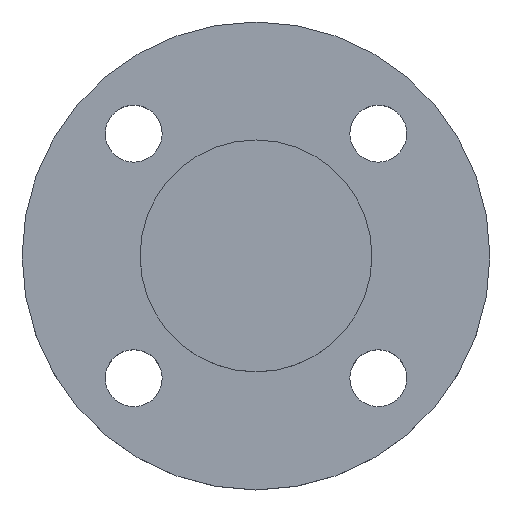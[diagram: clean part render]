
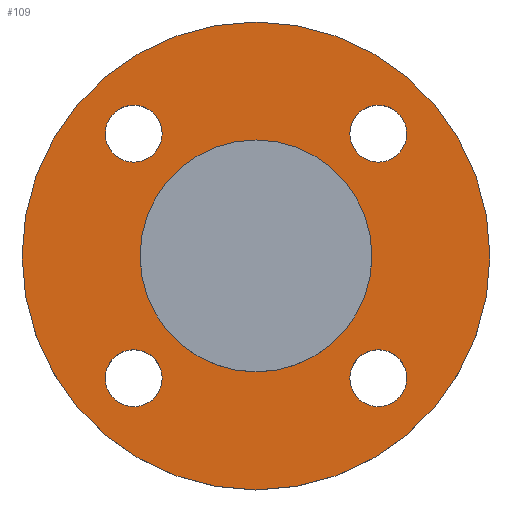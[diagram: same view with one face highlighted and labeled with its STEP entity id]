
A CAD part, top view. The second image highlights one B-rep face of the part: STEP entity #109.
In plain terms, the highlighted planar face has unit normal (0, 0, 1).
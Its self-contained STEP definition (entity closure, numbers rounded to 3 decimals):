
#5 = AXIS2_PLACEMENT_3D ( 'NONE', #481, #482, #483 ) ;
#6 = AXIS2_PLACEMENT_3D ( 'NONE', #507, #508, #509 ) ;
#7 = EDGE_CURVE ( 'NONE', #132, #118, #8, .T. ) ;
#8 = CIRCLE ( 'NONE', #31, 7. ) ;
#11 = AXIS2_PLACEMENT_3D ( 'NONE', #357, #358, #359 ) ;
#13 = AXIS2_PLACEMENT_3D ( 'NONE', #433, #434, #435 ) ;
#15 = EDGE_CURVE ( 'NONE', #236, #275, #22, .T. ) ;
#17 = AXIS2_PLACEMENT_3D ( 'NONE', #299, #300, #301 ) ;
#22 = CIRCLE ( 'NONE', #26, 7. ) ;
#24 = EDGE_CURVE ( 'NONE', #194, #251, #76, .T. ) ;
#26 = AXIS2_PLACEMENT_3D ( 'NONE', #293, #294, #295 ) ;
#31 = AXIS2_PLACEMENT_3D ( 'NONE', #290, #291, #292 ) ;
#37 = CIRCLE ( 'NONE', #122, 7. ) ;
#40 = CIRCLE ( 'NONE', #98, 7. ) ;
#47 = CIRCLE ( 'NONE', #48, 7. ) ;
#48 = AXIS2_PLACEMENT_3D ( 'NONE', #376, #377, #379 ) ;
#68 = CIRCLE ( 'NONE', #135, 57.5 ) ;
#76 = CIRCLE ( 'NONE', #17, 28.5 ) ;
#83 = CIRCLE ( 'NONE', #13, 7. ) ;
#88 = DIRECTION ( 'NONE',  ( -1., 0., 0. ) ) ;
#89 = AXIS2_PLACEMENT_3D ( 'NONE', #496, #497, #88 ) ;
#98 = AXIS2_PLACEMENT_3D ( 'NONE', #426, #427, #428 ) ;
#101 = AXIS2_PLACEMENT_3D ( 'NONE', #392, #393, #394 ) ;
#103 = CIRCLE ( 'NONE', #101, 7. ) ;
#109 = ADVANCED_FACE ( 'NONE', ( #350, #351, #352, #353, #354, #355 ), #356, .T. ) ;
#118 = VERTEX_POINT ( 'NONE', #374 ) ;
#122 = AXIS2_PLACEMENT_3D ( 'NONE', #429, #431, #432 ) ;
#124 = EDGE_CURVE ( 'NONE', #118, #132, #47, .T. ) ;
#128 = VERTEX_POINT ( 'NONE', #380 ) ;
#129 = EDGE_LOOP ( 'NONE', ( #217, #219 ) ) ;
#131 = EDGE_LOOP ( 'NONE', ( #210, #211 ) ) ;
#132 = VERTEX_POINT ( 'NONE', #381 ) ;
#133 = VERTEX_POINT ( 'NONE', #382 ) ;
#135 = AXIS2_PLACEMENT_3D ( 'NONE', #478, #479, #480 ) ;
#146 = EDGE_LOOP ( 'NONE', ( #200, #205 ) ) ;
#154 = EDGE_LOOP ( 'NONE', ( #212, #216 ) ) ;
#155 = VERTEX_POINT ( 'NONE', #391 ) ;
#156 = EDGE_CURVE ( 'NONE', #128, #155, #103, .T. ) ;
#171 = VERTEX_POINT ( 'NONE', #414 ) ;
#176 = EDGE_CURVE ( 'NONE', #155, #128, #40, .T. ) ;
#179 = EDGE_CURVE ( 'NONE', #267, #261, #37, .T. ) ;
#180 = EDGE_CURVE ( 'NONE', #261, #267, #83, .T. ) ;
#194 = VERTEX_POINT ( 'NONE', #462 ) ;
#200 = ORIENTED_EDGE ( 'NONE', *, *, #179, .T. ) ;
#205 = ORIENTED_EDGE ( 'NONE', *, *, #180, .T. ) ;
#206 = ORIENTED_EDGE ( 'NONE', *, *, #378, .T. ) ;
#207 = ORIENTED_EDGE ( 'NONE', *, *, #15, .T. ) ;
#208 = ORIENTED_EDGE ( 'NONE', *, *, #124, .T. ) ;
#209 = ORIENTED_EDGE ( 'NONE', *, *, #7, .T. ) ;
#210 = ORIENTED_EDGE ( 'NONE', *, *, #176, .T. ) ;
#211 = ORIENTED_EDGE ( 'NONE', *, *, #156, .T. ) ;
#212 = ORIENTED_EDGE ( 'NONE', *, *, #244, .T. ) ;
#216 = ORIENTED_EDGE ( 'NONE', *, *, #24, .T. ) ;
#217 = ORIENTED_EDGE ( 'NONE', *, *, #238, .F. ) ;
#219 = ORIENTED_EDGE ( 'NONE', *, *, #280, .F. ) ;
#236 = VERTEX_POINT ( 'NONE', #477 ) ;
#238 = EDGE_CURVE ( 'NONE', #171, #133, #68, .T. ) ;
#244 = EDGE_CURVE ( 'NONE', #251, #194, #458, .T. ) ;
#251 = VERTEX_POINT ( 'NONE', #487 ) ;
#257 = EDGE_LOOP ( 'NONE', ( #208, #209 ) ) ;
#261 = VERTEX_POINT ( 'NONE', #492 ) ;
#267 = VERTEX_POINT ( 'NONE', #493 ) ;
#270 = EDGE_LOOP ( 'NONE', ( #206, #207 ) ) ;
#273 = CIRCLE ( 'NONE', #89, 57.5 ) ;
#275 = VERTEX_POINT ( 'NONE', #495 ) ;
#280 = EDGE_CURVE ( 'NONE', #133, #171, #273, .T. ) ;
#290 = CARTESIAN_POINT ( 'NONE',  ( -30.052, 30.052, -4.5 ) ) ;
#291 = DIRECTION ( 'NONE',  ( 0., 0., -1. ) ) ;
#292 = DIRECTION ( 'NONE',  ( 1., 0., 0. ) ) ;
#293 = CARTESIAN_POINT ( 'NONE',  ( -30.052, -30.052, -4.5 ) ) ;
#294 = DIRECTION ( 'NONE',  ( 0., 0., -1. ) ) ;
#295 = DIRECTION ( 'NONE',  ( 1., 0., 0. ) ) ;
#299 = CARTESIAN_POINT ( 'NONE',  ( 0., 0., -4.5 ) ) ;
#300 = DIRECTION ( 'NONE',  ( 0., 0., -1. ) ) ;
#301 = DIRECTION ( 'NONE',  ( -1., 0., 0. ) ) ;
#326 = CIRCLE ( 'NONE', #6, 7. ) ;
#350 = FACE_BOUND ( 'NONE', #146, .T. ) ;
#351 = FACE_BOUND ( 'NONE', #270, .T. ) ;
#352 = FACE_BOUND ( 'NONE', #257, .T. ) ;
#353 = FACE_BOUND ( 'NONE', #131, .T. ) ;
#354 = FACE_BOUND ( 'NONE', #154, .T. ) ;
#355 = FACE_OUTER_BOUND ( 'NONE', #129, .T. ) ;
#356 = PLANE ( 'NONE',  #11 ) ;
#357 = CARTESIAN_POINT ( 'NONE',  ( 28.5, 0., -4.5 ) ) ;
#358 = DIRECTION ( 'NONE',  ( 0., 0., 1. ) ) ;
#359 = DIRECTION ( 'NONE',  ( 1., 0., 0. ) ) ;
#374 = CARTESIAN_POINT ( 'NONE',  ( -23.052, 30.052, -4.5 ) ) ;
#376 = CARTESIAN_POINT ( 'NONE',  ( -30.052, 30.052, -4.5 ) ) ;
#377 = DIRECTION ( 'NONE',  ( 0., 0., -1. ) ) ;
#378 = EDGE_CURVE ( 'NONE', #275, #236, #326, .T. ) ;
#379 = DIRECTION ( 'NONE',  ( 1., 0., 0. ) ) ;
#380 = CARTESIAN_POINT ( 'NONE',  ( 23.052, 30.052, -4.5 ) ) ;
#381 = CARTESIAN_POINT ( 'NONE',  ( -37.052, 30.052, -4.5 ) ) ;
#382 = CARTESIAN_POINT ( 'NONE',  ( -57.5, 0., -4.5 ) ) ;
#391 = CARTESIAN_POINT ( 'NONE',  ( 37.052, 30.052, -4.5 ) ) ;
#392 = CARTESIAN_POINT ( 'NONE',  ( 30.052, 30.052, -4.5 ) ) ;
#393 = DIRECTION ( 'NONE',  ( 0., 0., -1. ) ) ;
#394 = DIRECTION ( 'NONE',  ( 1., 0., 0. ) ) ;
#414 = CARTESIAN_POINT ( 'NONE',  ( 57.5, 0., -4.5 ) ) ;
#426 = CARTESIAN_POINT ( 'NONE',  ( 30.052, 30.052, -4.5 ) ) ;
#427 = DIRECTION ( 'NONE',  ( 0., 0., -1. ) ) ;
#428 = DIRECTION ( 'NONE',  ( 1., 0., 0. ) ) ;
#429 = CARTESIAN_POINT ( 'NONE',  ( 30.052, -30.052, -4.5 ) ) ;
#431 = DIRECTION ( 'NONE',  ( 0., 0., -1. ) ) ;
#432 = DIRECTION ( 'NONE',  ( 1., 0., 0. ) ) ;
#433 = CARTESIAN_POINT ( 'NONE',  ( 30.052, -30.052, -4.5 ) ) ;
#434 = DIRECTION ( 'NONE',  ( 0., 0., -1. ) ) ;
#435 = DIRECTION ( 'NONE',  ( 1., 0., 0. ) ) ;
#458 = CIRCLE ( 'NONE', #5, 28.5 ) ;
#462 = CARTESIAN_POINT ( 'NONE',  ( 28.5, 0., -4.5 ) ) ;
#477 = CARTESIAN_POINT ( 'NONE',  ( -37.052, -30.052, -4.5 ) ) ;
#478 = CARTESIAN_POINT ( 'NONE',  ( 0., 0., -4.5 ) ) ;
#479 = DIRECTION ( 'NONE',  ( 0., 0., -1. ) ) ;
#480 = DIRECTION ( 'NONE',  ( -1., 0., 0. ) ) ;
#481 = CARTESIAN_POINT ( 'NONE',  ( 0., 0., -4.5 ) ) ;
#482 = DIRECTION ( 'NONE',  ( 0., 0., -1. ) ) ;
#483 = DIRECTION ( 'NONE',  ( -1., 0., 0. ) ) ;
#487 = CARTESIAN_POINT ( 'NONE',  ( -28.5, 0., -4.5 ) ) ;
#492 = CARTESIAN_POINT ( 'NONE',  ( 23.052, -30.052, -4.5 ) ) ;
#493 = CARTESIAN_POINT ( 'NONE',  ( 37.052, -30.052, -4.5 ) ) ;
#495 = CARTESIAN_POINT ( 'NONE',  ( -23.052, -30.052, -4.5 ) ) ;
#496 = CARTESIAN_POINT ( 'NONE',  ( 0., 0., -4.5 ) ) ;
#497 = DIRECTION ( 'NONE',  ( 0., 0., -1. ) ) ;
#507 = CARTESIAN_POINT ( 'NONE',  ( -30.052, -30.052, -4.5 ) ) ;
#508 = DIRECTION ( 'NONE',  ( 0., 0., -1. ) ) ;
#509 = DIRECTION ( 'NONE',  ( 1., 0., 0. ) ) ;
